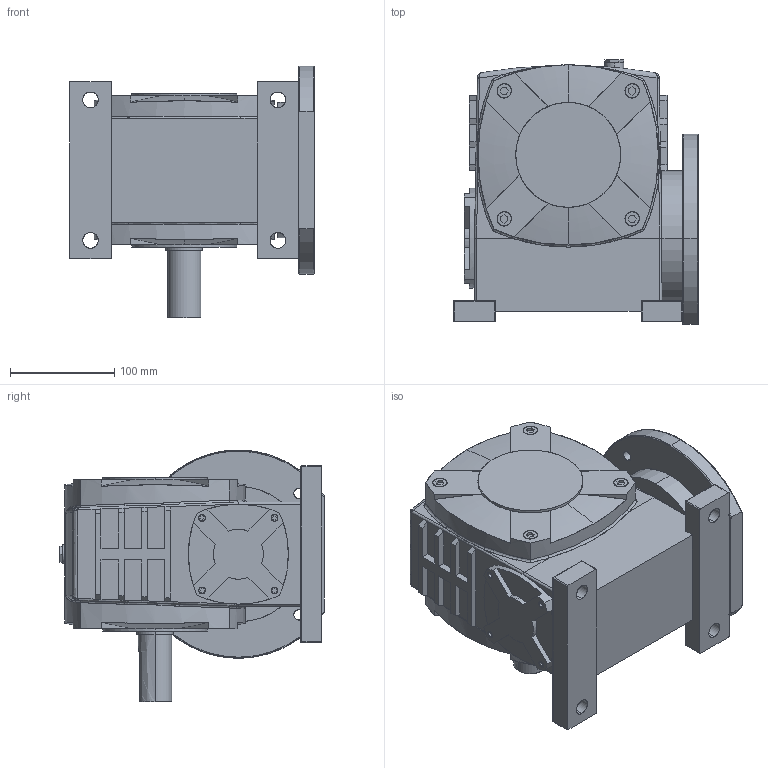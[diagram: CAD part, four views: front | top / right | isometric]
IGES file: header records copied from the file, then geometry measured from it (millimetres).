
Start section: SolidWorks IGES file using analytic representation for surfaces
Global section: file name: F:\3D芞祧\眒俇傖\WPDA80.IGS; native system: SolidWorks 2014; preprocessor: SolidWorks 2014; author: xing; date: 161023.113236; units: millimetre
Bounding box: 235 x 254 x 242 mm (x, y, z)
Surface area: 341106.7 mm2 (no closed solid volume)
Topology: 0 solids, 0 shells, 1038 faces, 11937 edges, 11929 vertices
Faces by surface type: bspline 835, revolution 203
